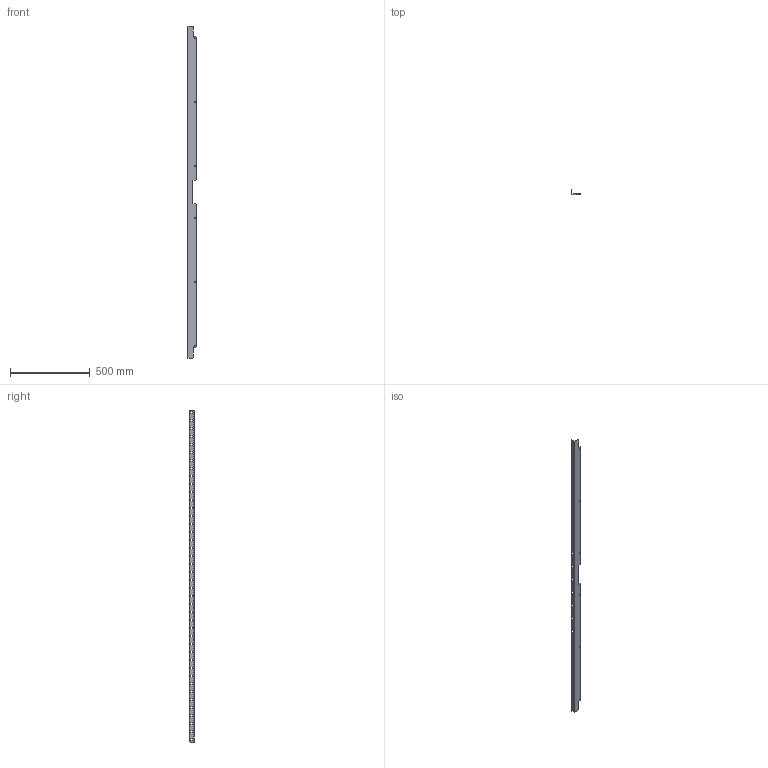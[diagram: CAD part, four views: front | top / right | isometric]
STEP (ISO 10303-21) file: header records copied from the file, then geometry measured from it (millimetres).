
FILE_DESCRIPTION (( 'STEP AP203' ), '1' );
FILE_NAME ('Äåðæàòåëü ïëàñòðîíîâ 2200 ìì.STEP', '2025-02-19T15:31:36', ( '' ), ( '' ), 'SwSTEP 2.0', 'SolidWorks 2021', '' );
FILE_SCHEMA (( 'CONFIG_CONTROL_DESIGN' ));
Length unit declared in the file: millimetre
Products named in the file (1): Äåðæàòåëü ïëàñòðîíîâ 2200 ìì
Bounding box: 56 x 28.5 x 2080 mm (x, y, z)
Volume: 162517.8 mm3; surface area: 331081.6 mm2
Topology: 1 solids, 1 shells, 210 faces, 616 edges, 408 vertices
Faces by surface type: plane 196, cylinder 14
Entity records: 7113 total; most frequent: CARTESIAN_POINT 1235, ORIENTED_EDGE 1232, DIRECTION 1066, EDGE_CURVE 616, LINE 588, VECTOR 588, VERTEX_POINT 408, EDGE_LOOP 306
